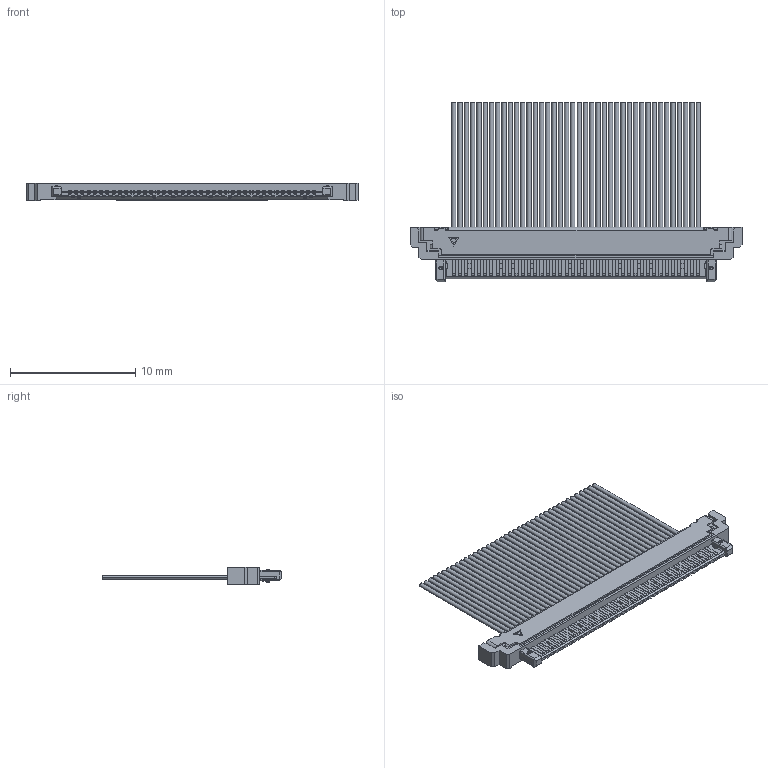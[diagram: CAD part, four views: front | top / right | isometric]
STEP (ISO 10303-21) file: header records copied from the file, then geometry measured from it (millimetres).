
FILE_DESCRIPTION(('Creo Elements/Direct Modeling STEP Export'),'2;1');
FILE_NAME('P3A798_SSL20-40SB.stp','2022-01-13T10:38:32',(''),(''),'Creo Elements/Direct Modeling STEP processor for AP214 (Solid Model)','Creo Elements/Direct Modeling 20.2 28-Feb-2019 (C) Parametric Technology GmbH','');
FILE_SCHEMA(('AUTOMOTIVE_DESIGN { 1 0 10303 214 1 1 1 1 }'));
Length unit declared in the file: millimetre
Products named in the file (2): P3A798_SSL20-40SB
Assembly tree (1 placements, depth 2):
  P3A798_SSL20-40SB
    P3A798_SSL20-40SB
Bounding box: 26.5 x 14.35 x 1.4 mm (x, y, z)
Volume: 137.5 mm3; surface area: 741.2 mm2
Topology: 1 solids, 1 shells, 981 faces, 2625 edges, 1720 vertices
Faces by surface type: plane 780, cylinder 181, cone 12, torus 8
Entity records: 29689 total; most frequent: ORIENTED_EDGE 5250, CARTESIAN_POINT 5206, DIRECTION 4782, EDGE_CURVE 2625, VECTOR 2190, LINE 2190, VERTEX_POINT 1720, AXIS2_PLACEMENT_3D 1296
